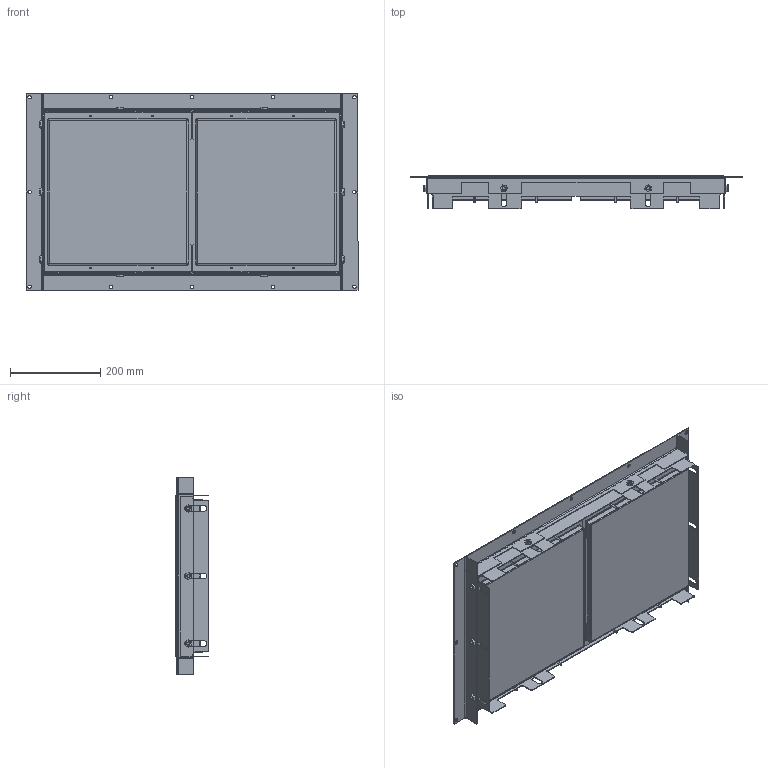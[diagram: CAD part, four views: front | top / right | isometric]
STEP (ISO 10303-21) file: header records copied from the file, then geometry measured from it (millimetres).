
FILE_DESCRIPTION (( 'STEP AP214' ), '1' );
FILE_NAME ('MS-IR-20-E_123260.STEP', '2019-02-13T08:56:46', ( '' ), ( '' ), 'SwSTEP 2.0', 'SolidWorks 2018', '' );
FILE_SCHEMA (( 'AUTOMOTIVE_DESIGN' ));
Length unit declared in the file: millimetre
Products named in the file (1): MS-IR-20-E_123260
Bounding box: 737 x 74.4 x 437 mm (x, y, z)
Volume: 9892287.3 mm3; surface area: 1502559.8 mm2
Topology: 1 solids, 1 shells, 1067 faces, 2842 edges, 1696 vertices
Faces by surface type: cylinder 452, plane 393, bspline 164, torus 56, cone 2
Entity records: 43568 total; most frequent: CARTESIAN_POINT 18014, ORIENTED_EDGE 5524, DIRECTION 4910, EDGE_CURVE 2762, AXIS2_PLACEMENT_3D 1724, VERTEX_POINT 1696, VECTOR 1462, LINE 1462
